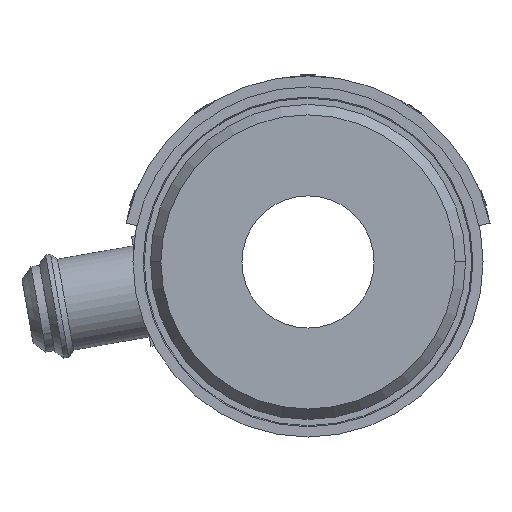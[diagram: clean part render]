
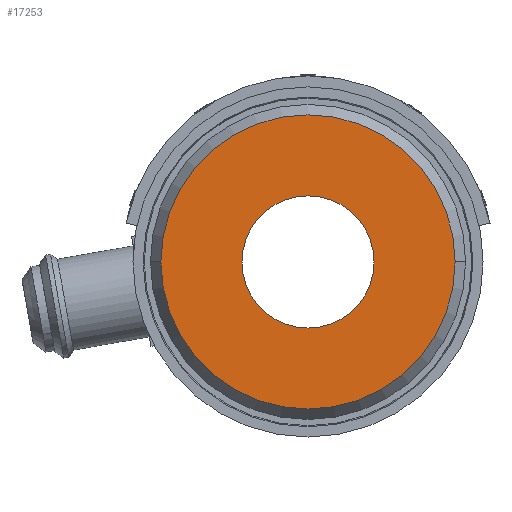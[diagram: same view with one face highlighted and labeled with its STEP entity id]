
A CAD part, left-side view. The second image highlights one B-rep face of the part: STEP entity #17253.
In plain terms, the highlighted planar face has unit normal (-1, 0, 0).
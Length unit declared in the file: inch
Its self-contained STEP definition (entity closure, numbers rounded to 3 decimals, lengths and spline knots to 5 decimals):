
#61 = FACE_BOUND ( 'NONE', #17326, .T. ) ;
#578 = CARTESIAN_POINT ( 'NONE',  ( -0.00813, 0., 0. ) ) ;
#599 = DIRECTION ( 'NONE',  ( -1., 0., 0. ) ) ;
#664 = CARTESIAN_POINT ( 'NONE',  ( -0.00813, 0., 0. ) ) ;
#1584 = CARTESIAN_POINT ( 'NONE',  ( -0.00813, 0.601, 0. ) ) ;
#2349 = CARTESIAN_POINT ( 'NONE',  ( -0.00813, -1.33824, 0. ) ) ;
#2366 = AXIS2_PLACEMENT_3D ( 'NONE', #664, #599, #13114 ) ;
#3280 = DIRECTION ( 'NONE',  ( 0., 1., 0. ) ) ;
#3305 = AXIS2_PLACEMENT_3D ( 'NONE', #1584, #18452, #3280 ) ;
#3953 = FACE_OUTER_BOUND ( 'NONE', #18011, .T. ) ;
#4204 = CARTESIAN_POINT ( 'NONE',  ( -0.00813, -0.601, 0. ) ) ;
#5236 = ORIENTED_EDGE ( 'NONE', *, *, #15693, .T. ) ;
#6113 = DIRECTION ( 'NONE',  ( 0., -1., 0. ) ) ;
#6249 = DIRECTION ( 'NONE',  ( -1., 0., 0. ) ) ;
#6662 = EDGE_CURVE ( 'NONE', #7973, #9709, #13170, .T. ) ;
#6792 = DIRECTION ( 'NONE',  ( 0., -1., 0. ) ) ;
#7678 = AXIS2_PLACEMENT_3D ( 'NONE', #12277, #6249, #6113 ) ;
#7898 = EDGE_CURVE ( 'NONE', #12697, #19228, #12389, .T. ) ;
#7973 = VERTEX_POINT ( 'NONE', #15627 ) ;
#8669 = DIRECTION ( 'NONE',  ( -1., 0., 0. ) ) ;
#8865 = ORIENTED_EDGE ( 'NONE', *, *, #12629, .F. ) ;
#8917 = AXIS2_PLACEMENT_3D ( 'NONE', #13299, #8669, #13161 ) ;
#9709 = VERTEX_POINT ( 'NONE', #4204 ) ;
#11223 = DIRECTION ( 'NONE',  ( -1., 0., 0. ) ) ;
#11319 = CIRCLE ( 'NONE', #8917, 0.601 ) ;
#12277 = CARTESIAN_POINT ( 'NONE',  ( -0.00813, 0., 0. ) ) ;
#12389 = CIRCLE ( 'NONE', #7678, 1.33824 ) ;
#12477 = ORIENTED_EDGE ( 'NONE', *, *, #6662, .F. ) ;
#12629 = EDGE_CURVE ( 'NONE', #9709, #7973, #11319, .T. ) ;
#12697 = VERTEX_POINT ( 'NONE', #13632 ) ;
#13114 = DIRECTION ( 'NONE',  ( 0., -1., 0. ) ) ;
#13161 = DIRECTION ( 'NONE',  ( 0., -1., 0. ) ) ;
#13170 = CIRCLE ( 'NONE', #14840, 0.601 ) ;
#13299 = CARTESIAN_POINT ( 'NONE',  ( -0.00813, 0., 0. ) ) ;
#13374 = CIRCLE ( 'NONE', #2366, 1.33824 ) ;
#13632 = CARTESIAN_POINT ( 'NONE',  ( -0.00813, 1.33824, 0. ) ) ;
#14231 = ORIENTED_EDGE ( 'NONE', *, *, #7898, .T. ) ;
#14840 = AXIS2_PLACEMENT_3D ( 'NONE', #578, #11223, #6792 ) ;
#15627 = CARTESIAN_POINT ( 'NONE',  ( -0.00813, 0.601, 0. ) ) ;
#15693 = EDGE_CURVE ( 'NONE', #19228, #12697, #13374, .T. ) ;
#16886 = PLANE ( 'NONE',  #3305 ) ;
#17253 = ADVANCED_FACE ( 'NONE', ( #61, #3953 ), #16886, .F. ) ;
#17326 = EDGE_LOOP ( 'NONE', ( #8865, #12477 ) ) ;
#18011 = EDGE_LOOP ( 'NONE', ( #14231, #5236 ) ) ;
#18452 = DIRECTION ( 'NONE',  ( 1., 0., 0. ) ) ;
#19228 = VERTEX_POINT ( 'NONE', #2349 ) ;
